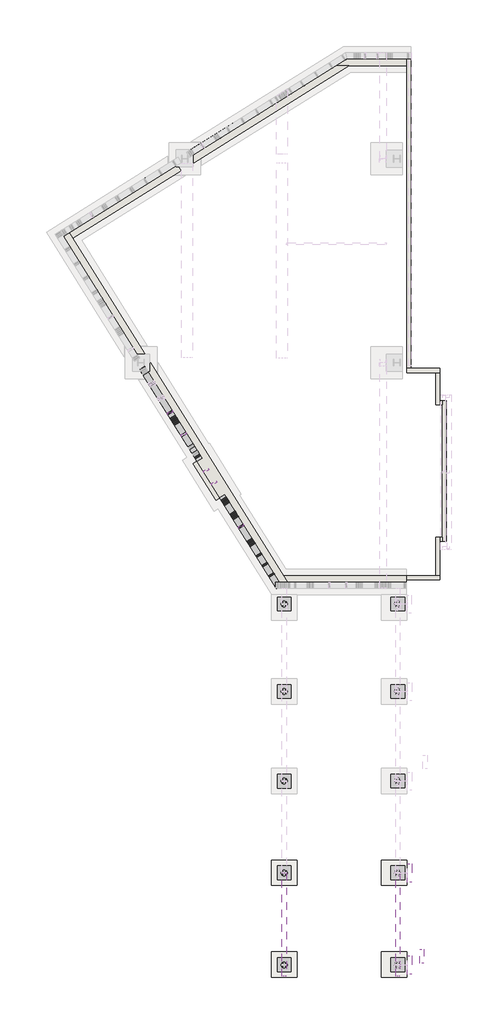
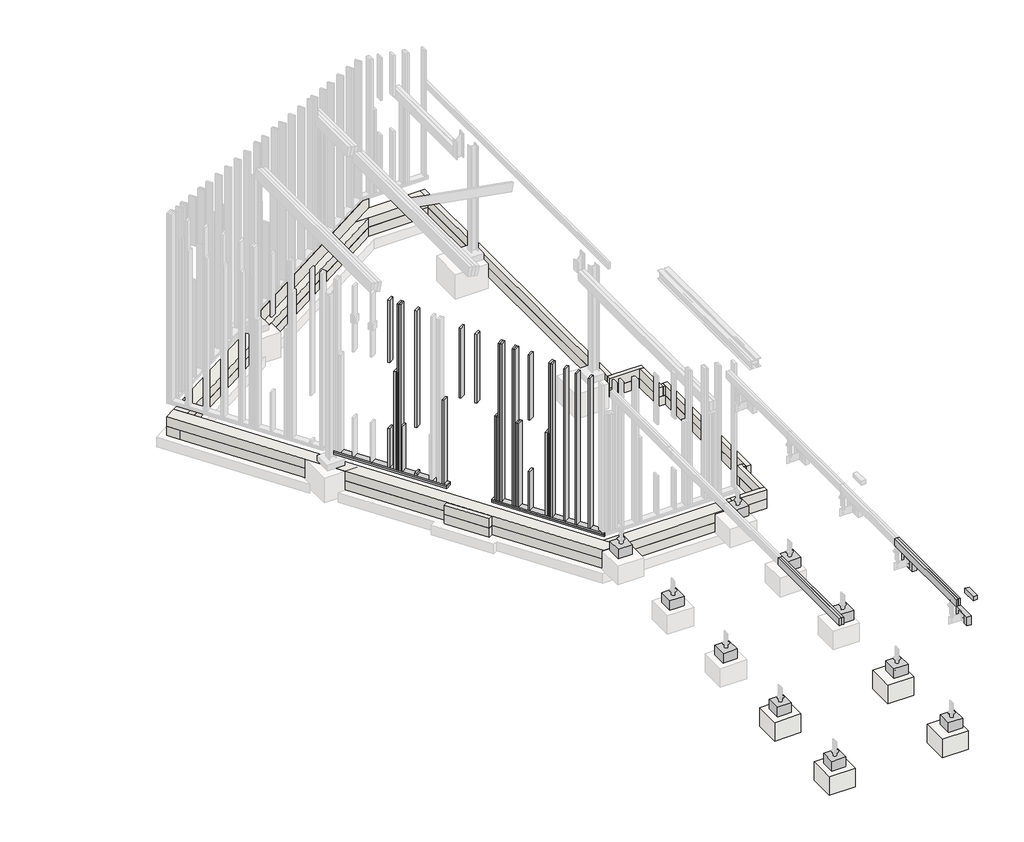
# One storey, part 1 of 4: 39 columns, 32 walls, 9 beams, 4 slabs.
"""IFC4 building model written with IfcOpenShell, lengths in millimetres."""

from ifc_helpers import new_model, si_unit, frame, origin, place, context, project, spatial, polyline, outline, extrude, faceted_brep, transform, mapped, element, save
from components import beam_100x100_d69ae5f3, beam_2no_50_x_175_2_x_50x175_3356c97d, beam_2no_50_x_175_2_x_50x175_d0a0cd10, beam_38x140_b259245b, beam_38x140_a842bf6c, beam_38x140_6110aaea, column_83368853, column_b87cddad, column_49410136, column_7c1e64be, column_413a78d8, column_adfb2fb4, column_9c828cce, column_3a553e79, column_8a827cf4, column_438b2587

model = new_model("IFC4")

# Units and contexts
model_context = context("Model", 3, world=origin())
ifc_project = project(units=[si_unit("LENGTHUNIT", "METRE", prefix="MILLI")], contexts=[model_context])

# Site, building, storey
site = spatial("IfcSite", under=ifc_project)
building = spatial("IfcBuilding", under=site)
storey = spatial("IfcBuildingStorey", under=building, Name="Ground Floor Plan Showing Foundations", Elevation=-93.0)

# Beams
placement = place(None, origin())
beam_100x100_shape = beam_100x100_d69ae5f3(model_context)
element("IfcBeam", 1, ObjectType="Graded Timber : 100x100", at=placement, inside=storey, context=model_context, shape_type="MappedRepresentation", body=[
    mapped(beam_100x100_shape, transform((-28522.9371107, -2956.2034, 2897.0), x_axis=(0.0, 1.0, 0.0), y_axis=(-1.0, 0.0, 0.0), z_axis=(0.0, 0.0, 1.0))),
])
beam_2no_50_x_175_2_x_50x175_shape = beam_2no_50_x_175_2_x_50x175_3356c97d(model_context)
element("IfcBeam", 2, ObjectType="2No 50 x 175 : 2 x 50x175", at=placement, inside=storey, context=model_context, shape_type="MappedRepresentation", body=[
    mapped(beam_2no_50_x_175_2_x_50x175_shape, transform((-29067.1341292, -2053.630818, 3177.0), x_axis=(0.0, -1.0, 0.0), y_axis=(1.0, 0.0, 0.0), z_axis=(0.0, 0.0, 1.0))),
])
beam_2no_50_x_175_2_x_50x175_2_shape = beam_2no_50_x_175_2_x_50x175_d0a0cd10(model_context)
element("IfcBeam", 3, ObjectType="2No 50 x 175 : 2 x 50x175", at=placement, inside=storey, context=model_context, shape_type="MappedRepresentation", body=[
    mapped(beam_2no_50_x_175_2_x_50x175_2_shape, transform((-31746.4559584, -2046.4167663, 3652.0), x_axis=(0.0, -1.0, 0.0), y_axis=(1.0, 0.0, 0.0), z_axis=(0.0, 0.0, 1.0))),
])
beam_38x140_shape = beam_38x140_b259245b(model_context)
element("IfcBeam", 4, ObjectType="Graded Timber : 38x140", at=placement, inside=storey, context=model_context, shape_type="MappedRepresentation", body=[
    mapped(beam_38x140_shape, transform((-34444.9117203, 9851.631725, 261.0), x_axis=(-0.5299275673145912, 0.8480429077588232, 0.0), y_axis=(0.0, 0.0, -1.0000000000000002), z_axis=(-0.8480429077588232, -0.5299275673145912, 0.0))),
])
beam_38x140_2_shape = beam_38x140_a842bf6c(model_context)
element("IfcBeam", 5, ObjectType="Graded Timber : 38x140", at=placement, inside=storey, context=model_context, shape_type="MappedRepresentation", body=[
    mapped(beam_38x140_2_shape, transform((-32564.0652255, 6841.624671, 261.0), x_axis=(-0.5299192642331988, 0.8480480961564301, 0.0), y_axis=(0.0, 0.0, -1.0000000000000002), z_axis=(-0.8480480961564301, -0.5299192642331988, 0.0))),
])
element("IfcBeam", 6, ObjectType="Graded Timber : 38x140", at=placement, inside=storey, context=model_context, shape_type="MappedRepresentation", body=[
    mapped(beam_38x140_2_shape, transform((-32564.0306662, 6841.633705, 299.0), x_axis=(-0.5299192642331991, 0.8480480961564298, 0.0), y_axis=(0.0, 0.0, -1.0000000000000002), z_axis=(-0.8480480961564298, -0.5299192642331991, 0.0))),
])
beam_38x140_3_shape = beam_38x140_6110aaea(model_context)
element("IfcBeam", 7, ObjectType="Graded Timber : 38x140", at=placement, inside=storey, context=model_context, shape_type="MappedRepresentation", body=[
    mapped(beam_38x140_3_shape, transform((-34452.6158892, 9863.9592633, 299.0), x_axis=(-0.5299275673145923, 0.8480429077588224, 0.0), y_axis=(0.0, 0.0, -1.0000000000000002), z_axis=(-0.8480429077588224, -0.5299275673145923, 0.0))),
])
element("IfcBeam", 8, ObjectType="Concrete-Rectangular Beam : 215 x 100mm", at=placement, inside=storey, context=model_context, shape_type="SweptSolid", body=[
    extrude(outline(polyline([(-28862.9371107, -2918.8830295), (-28762.9371107, -2918.8830295), (-28762.9371107, -3346.1830288), (-28862.9371107, -3346.1830288), (-28862.9371107, -2918.8830295)])), frame((0.0, 0.0, 2492.0), z_axis=(0.0, 0.0, 1.0), x_axis=(1.0, 0.0, 0.0)), (0.0, 0.0, 1.0), 215.0),
])
element("IfcBeam", 9, ObjectType="Concrete-Rectangular Beam : 215 x 100mm", at=placement, inside=storey, context=model_context, shape_type="SweptSolid", body=[
    extrude(outline(polyline([(-28862.9371107, -752.9332376), (-28762.9371107, -752.9332376), (-28762.9371107, -1180.233237), (-28862.9371107, -1180.233237), (-28862.9371107, -752.9332376)])), frame((0.0, 0.0, 2492.0), z_axis=(0.0, 0.0, 1.0), x_axis=(1.0, 0.0, 0.0)), (0.0, 0.0, 1.0), 215.0),
])

# Columns
column_shape = column_83368853(model_context)
element("IfcColumn", 10, ObjectType="Column Encasement8 : Column Encasement", at=placement, inside=storey, context=model_context, shape_type="MappedRepresentation", body=[
    mapped(column_shape, transform((0.0, -6433.8606613, 0.0), x_axis=(1.0, 0.0, 0.0), y_axis=(0.0, 1.0, 0.0), z_axis=(0.0, 0.0, 1.0))),
])
column_2_shape = column_b87cddad(model_context)
element("IfcColumn", 11, ObjectType="Column Encasement4 : Column Encasement", at=placement, inside=storey, context=model_context, shape_type="MappedRepresentation", body=[
    mapped(column_2_shape, transform((0.0, -6433.8606613, 0.0), x_axis=(1.0, 0.0, 0.0), y_axis=(0.0, 1.0, 0.0), z_axis=(0.0, 0.0, 1.0))),
])
column_3_shape = column_49410136(model_context)
element("IfcColumn", 12, ObjectType="Column Encasement5 : Column Encasement", at=placement, inside=storey, context=model_context, shape_type="MappedRepresentation", body=[
    mapped(column_3_shape, transform((0.0, -6733.8606613, 0.0), x_axis=(1.0, 0.0, 0.0), y_axis=(0.0, 1.0, 0.0), z_axis=(0.0, 0.0, 1.0))),
])
column_4_shape = column_7c1e64be(model_context)
element("IfcColumn", 13, ObjectType="Column Encasement6 : Column Encasement", at=placement, inside=storey, context=model_context, shape_type="MappedRepresentation", body=[
    mapped(column_4_shape, transform((0.0, -6433.8606613, 0.0), x_axis=(1.0, 0.0, 0.0), y_axis=(0.0, 1.0, 0.0), z_axis=(0.0, 0.0, 1.0))),
])
column_5_shape = column_413a78d8(model_context)
element("IfcColumn", 14, ObjectType="Column Encasement7 : Column Encasement", at=placement, inside=storey, context=model_context, shape_type="MappedRepresentation", body=[
    mapped(column_5_shape, transform((0.0, -6433.8606613, 0.0), x_axis=(1.0, 0.0, 0.0), y_axis=(0.0, 1.0, 0.0), z_axis=(0.0, 0.0, 1.0))),
])
column_6_shape = column_adfb2fb4(model_context)
element("IfcColumn", 15, ObjectType="Column Encasement9 : Column Encasement", at=placement, inside=storey, context=model_context, shape_type="MappedRepresentation", body=[
    mapped(column_6_shape, transform((0.0, -6433.8606613, 0.0), x_axis=(1.0, 0.0, 0.0), y_axis=(0.0, 1.0, 0.0), z_axis=(0.0, 0.0, 1.0))),
])
column_7_shape = column_9c828cce(model_context)
element("IfcColumn", 16, ObjectType="Column Encasement10 : Column Encasement", at=placement, inside=storey, context=model_context, shape_type="MappedRepresentation", body=[
    mapped(column_7_shape, transform((0.0, -6433.8606613, 0.0), x_axis=(1.0, 0.0, 0.0), y_axis=(0.0, 1.0, 0.0), z_axis=(0.0, 0.0, 1.0))),
])
column_8_shape = column_3a553e79(model_context)
element("IfcColumn", 17, ObjectType="Column Encasement12 : Column Encasement", at=placement, inside=storey, context=model_context, shape_type="MappedRepresentation", body=[
    mapped(column_8_shape, transform((0.0, -6433.8606613, 0.0), x_axis=(1.0, 0.0, 0.0), y_axis=(0.0, 1.0, 0.0), z_axis=(0.0, 0.0, 1.0))),
])
column_9_shape = column_8a827cf4(model_context)
element("IfcColumn", 18, ObjectType="Column Encasement13 : Column Encasement", at=placement, inside=storey, context=model_context, shape_type="MappedRepresentation", body=[
    mapped(column_9_shape, transform((0.0, -6433.8606613, 0.0), x_axis=(1.0, 0.0, 0.0), y_axis=(0.0, 1.0, 0.0), z_axis=(0.0, 0.0, 1.0))),
])
column_10_shape = column_438b2587(model_context)
element("IfcColumn", 19, ObjectType="Column Encasement14 : Column Encasement", at=placement, inside=storey, context=model_context, shape_type="MappedRepresentation", body=[
    mapped(column_10_shape, transform((0.0, -6736.6870523, 0.0), x_axis=(1.0, 0.0, 0.0), y_axis=(0.0, 1.0, 0.0), z_axis=(0.0, 0.0, 1.0))),
])
element("IfcColumn", 20, ObjectType="Timber : 38x140", at=placement, inside=storey, context=model_context, shape_type="Brep", body=[
    faceted_brep([(-34530.1727167, 9855.9649861, 2867.0), (-34411.4434768, 9930.1496718, 2867.0), (-34391.3076336, 9897.9231639, 2867.0), (-34510.0368734, 9823.7384781, 2867.0), (-34411.4434768, 9930.1496718, 4382.48868), (-34530.1727167, 9855.9649861, 4382.4891221), (-34391.3076336, 9897.9231639, 4378.9379956), (-34510.0368734, 9823.7384781, 4378.9384377)], [[[0, 1, 2, 3]], [[4, 1, 0, 5]], [[6, 2, 1, 4]], [[7, 3, 2, 6]], [[5, 0, 3, 7]], [[4, 5, 7, 6]]]),
])
element("IfcColumn", 21, ObjectType="Timber : 38x140", at=placement, inside=storey, context=model_context, shape_type="SweptSolid", body=[
    extrude(outline(polyline([(-33745.1702254, 8863.9286798), (-33863.8962325, 8789.7388203), (-33884.03348, 8821.9644508), (-33765.3074729, 8896.1543103), (-33745.1702254, 8863.9286798)])), frame((0.0, 0.0, 318.0), z_axis=(0.0, 0.0, 1.0), x_axis=(1.0, 0.0, 0.0)), (0.0, 0.0, 1.0), 2039.0),
])
element("IfcColumn", 22, ObjectType="Timber : 38x140", at=placement, inside=storey, context=model_context, shape_type="SweptSolid", body=[
    extrude(outline(polyline([(-32849.9557199, 7431.3050397), (-32968.6824534, 7357.1163427), (-32988.8193854, 7389.3421704), (-32870.092652, 7463.5308673), (-32849.9557199, 7431.3050397)])), frame((0.0, 0.0, 318.0), z_axis=(0.0, 0.0, 1.0), x_axis=(1.0, 0.0, 0.0)), (0.0, 0.0, 1.0), 2024.0),
])
element("IfcColumn", 23, ObjectType="Timber : 38x140", at=placement, inside=storey, context=model_context, shape_type="SweptSolid", body=[
    extrude(outline(polyline([(902.5784578, 0.0), (2473.0, 0.0), (2473.0, -38.0), (906.1291422, -38.0), (902.5784578, 0.0)])), frame((-32856.7351885, 7177.9632648, 4990.0), z_axis=(0.8480480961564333, 0.5299192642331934, 0.0), x_axis=(0.0, 0.0, -1.0)), (0.0, 0.0, 1.0), 140.0),
])
element("IfcColumn", 24, ObjectType="Timber : 38x140", at=placement, inside=storey, context=model_context, shape_type="SweptSolid", body=[
    extrude(outline(polyline([(-32511.8672302, 6890.2503508), (-32630.5939637, 6816.0616538), (-32650.7308957, 6848.2874815), (-32532.0041622, 6922.4761785), (-32511.8672302, 6890.2503508)])), frame((0.0, 0.0, 318.0), z_axis=(0.0, 0.0, 1.0), x_axis=(1.0, 0.0, 0.0)), (0.0, 0.0, 1.0), 2024.0),
])
element("IfcColumn", 25, ObjectType="Timber : 38x140", at=placement, inside=storey, context=model_context, shape_type="SweptSolid", body=[
    extrude(outline(polyline([(977.3297089, 0.0), (4672.0, 0.0), (4672.0, -38.0), (980.8803933, -38.0), (977.3297089, 0.0)])), frame((-32432.7997772, 6499.5247878, 4990.0), z_axis=(0.8480480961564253, 0.5299192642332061, 0.0), x_axis=(0.0, 0.0, -1.0)), (0.0, 0.0, 1.0), 140.0),
])
element("IfcColumn", 26, ObjectType="Timber : 38x140", at=placement, inside=storey, context=model_context, shape_type="SweptSolid", body=[
    extrude(outline(polyline([(1001.6238655, 0.0), (4672.0, 0.0), (4672.0, -38.0), (1005.1745499, -38.0), (1001.6238655, 0.0)])), frame((-32295.0207685, 6279.0322828, 4990.0), z_axis=(0.8480480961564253, 0.5299192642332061, 0.0), x_axis=(0.0, 0.0, -1.0)), (0.0, 0.0, 1.0), 140.0),
])
element("IfcColumn", 27, ObjectType="Timber : 38x140", at=placement, inside=storey, context=model_context, shape_type="SweptSolid", body=[
    extrude(outline(polyline([(-34530.1668415, 9855.9686573), (-34411.4408344, 9930.1585167), (-34391.3035869, 9897.9328862), (-34510.0295939, 9823.7430268), (-34530.1668415, 9855.9686573)])), frame((0.0, 0.0, 318.0), z_axis=(0.0, 0.0, 1.0), x_axis=(1.0, 0.0, 0.0)), (0.0, 0.0, 1.0), 948.0),
])
element("IfcColumn", 28, ObjectType="Timber : 38x140", at=placement, inside=storey, context=model_context, shape_type="SweptSolid", body=[
    extrude(outline(polyline([(-34208.2544488, 9340.8148638), (-34089.5284417, 9415.0047232), (-34069.3911942, 9382.7790928), (-34188.1172012, 9308.5892333), (-34208.2544488, 9340.8148638)])), frame((0.0, 0.0, 318.0), z_axis=(0.0, 0.0, 1.0), x_axis=(1.0, 0.0, 0.0)), (0.0, 0.0, 1.0), 73.0),
])
element("IfcColumn", 29, ObjectType="Timber : 38x140", at=placement, inside=storey, context=model_context, shape_type="Brep", body=[
    faceted_brep([(-34208.2664832, 9340.8073439, 1488.0), (-34089.5372434, 9414.9920296, 1488.0), (-34069.4014001, 9382.7655217, 1488.0), (-34188.1306399, 9308.5808359, 1488.0), (-34089.5372434, 9414.9920296, 4325.7279272), (-34208.2664832, 9340.8073439, 4325.7283694), (-34069.4014001, 9382.7655217, 4322.1772428), (-34188.1306399, 9308.5808359, 4322.177685)], [[[0, 1, 2, 3]], [[4, 1, 0, 5]], [[6, 2, 1, 4]], [[7, 3, 2, 6]], [[5, 0, 3, 7]], [[4, 5, 7, 6]]]),
])
element("IfcColumn", 30, ObjectType="Timber : 38x140", at=placement, inside=storey, context=model_context, shape_type="Brep", body=[
    faceted_brep([(-33353.8011835, 8237.5688796, 2532.0), (-33472.5271906, 8163.3790202, 2532.0), (-33492.6644381, 8195.6046507, 2532.0), (-33373.9384311, 8269.7945101, 2532.0), (-33472.5271906, 8163.3790202, 4195.9977345), (-33353.8011835, 8237.5688796, 4195.9978623), (-33492.6644381, 8195.6046507, 4199.5484189), (-33373.9384311, 8269.7945101, 4199.5485468)], [[[0, 1, 2, 3]], [[4, 1, 0, 5]], [[6, 2, 1, 4]], [[7, 3, 2, 6]], [[5, 0, 3, 7]], [[4, 5, 7, 6]]]),
])
element("IfcColumn", 31, ObjectType="Timber : 38x140", at=placement, inside=storey, context=model_context, shape_type="SweptSolid", body=[
    extrude(outline(polyline([(-32717.8723, 7219.9273775), (-32836.5990335, 7145.7386805), (-32856.7359655, 7177.9645082), (-32738.0092321, 7252.1532052), (-32717.8723, 7219.9273775)])), frame((0.0, 0.0, 318.0), z_axis=(0.0, 0.0, 1.0), x_axis=(1.0, 0.0, 0.0)), (0.0, 0.0, 1.0), 948.0),
])
element("IfcColumn", 32, ObjectType="Timber : 38x140", at=placement, inside=storey, context=model_context, shape_type="SweptSolid", body=[
    extrude(outline(polyline([(757.7479087, 0.0), (2458.0, 0.0), (2458.0, -38.0), (761.2985932, -38.0), (757.7479087, 0.0)])), frame((-33678.136183, 8492.4214829, 4990.0), z_axis=(0.8480480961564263, 0.5299192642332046, 0.0), x_axis=(0.0, 0.0, -1.0)), (0.0, 0.0, 1.0), 140.0),
])
element("IfcColumn", 33, ObjectType="Timber : 38x140", at=placement, inside=storey, context=model_context, shape_type="Brep", body=[
    faceted_brep([(-34258.5037818, 9685.3957068, 318.0), (-34377.2297889, 9611.2058474, 318.0), (-34397.3670365, 9643.4314779, 318.0), (-34278.6410294, 9717.6213373, 318.0), (-34377.2297889, 9611.2058474, 4355.5212137), (-34258.5037818, 9685.3957068, 4355.5213416), (-34397.3670365, 9643.4314779, 4359.0718981), (-34278.6410294, 9717.6213373, 4359.072026)], [[[0, 1, 2, 3]], [[4, 1, 0, 5]], [[6, 2, 1, 4]], [[7, 3, 2, 6]], [[5, 0, 3, 7]], [[4, 5, 7, 6]]]),
])
element("IfcColumn", 34, ObjectType="Timber : 38x140", at=placement, inside=storey, context=model_context, shape_type="Brep", body=[
    faceted_brep([(-34278.6407144, 9717.6215342, 318.0), (-34397.3667215, 9643.4316747, 318.0), (-34417.503969, 9675.6573052, 318.0), (-34298.7779619, 9749.8471647, 318.0), (-34397.3667215, 9643.4316747, 4359.0718981), (-34278.6407144, 9717.6215342, 4359.072026), (-34417.503969, 9675.6573052, 4362.6225826), (-34298.7779619, 9749.8471647, 4362.6227104)], [[[0, 1, 2, 3]], [[4, 1, 0, 5]], [[6, 2, 1, 4]], [[7, 3, 2, 6]], [[5, 0, 3, 7]], [[4, 5, 7, 6]]]),
])
element("IfcColumn", 35, ObjectType="Timber : 38x140", at=placement, inside=storey, context=model_context, shape_type="Brep", body=[
    faceted_brep([(-33055.2056937, 7759.7760908, 318.0), (-33173.9317008, 7685.5862314, 318.0), (-33194.0689483, 7717.8118619, 318.0), (-33075.3429413, 7792.0017213, 318.0), (-33173.9317008, 7685.5862314, 4143.3520385), (-33055.2056937, 7759.7760908, 4143.3521664), (-33194.0689483, 7717.8118619, 4146.902723), (-33075.3429413, 7792.0017213, 4146.9028508)], [[[0, 1, 2, 3]], [[4, 1, 0, 5]], [[6, 2, 1, 4]], [[7, 3, 2, 6]], [[5, 0, 3, 7]], [[4, 5, 7, 6]]]),
])
element("IfcColumn", 36, ObjectType="Timber : 38x140", at=placement, inside=storey, context=model_context, shape_type="SweptSolid", body=[
    extrude(outline(polyline([(872.1870807, 0.0), (4672.0, 0.0), (4672.0, -38.0), (875.7377651, -38.0), (872.1870807, 0.0)])), frame((-33029.0932507, 7453.7938276, 4990.0), z_axis=(0.8480480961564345, 0.5299192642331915, 0.0), x_axis=(0.0, 0.0, -1.0)), (0.0, 0.0, 1.0), 140.0),
])
element("IfcColumn", 37, ObjectType="Timber : 38x140", at=placement, inside=storey, context=model_context, shape_type="SweptSolid", body=[
    extrude(outline(polyline([(946.0039416, 0.0), (4672.0, 0.0), (4672.0, -38.0), (949.554626, -38.0), (946.0039416, 0.0)])), frame((-32610.4570316, 6783.8358262, 4990.0), z_axis=(0.8480480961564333, 0.5299192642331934, 0.0), x_axis=(0.0, 0.0, -1.0)), (0.0, 0.0, 1.0), 140.0),
])
element("IfcColumn", 38, ObjectType="Timber : 38x140", at=placement, inside=storey, context=model_context, shape_type="SweptSolid", body=[
    extrude(outline(polyline([(1028.5865969, 0.0), (4672.0, 0.0), (4672.0, -38.0), (1032.1372813, -38.0), (1028.5865969, 0.0)])), frame((-32142.10752, 6034.3199313, 4990.0), z_axis=(0.8480480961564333, 0.5299192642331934, 0.0), x_axis=(0.0, 0.0, -1.0)), (0.0, 0.0, 1.0), 140.0),
])
element("IfcColumn", 39, ObjectType="Timber : 38x140", at=placement, inside=storey, context=model_context, shape_type="SweptSolid", body=[
    extrude(outline(polyline([(-34318.9067862, 9782.0780497), (-34437.6327933, 9707.8881903), (-34457.7700409, 9740.1138208), (-34339.0440338, 9814.3036802), (-34318.9067862, 9782.0780497)])), frame((0.0, 0.0, 318.0), z_axis=(0.0, 0.0, 1.0), x_axis=(1.0, 0.0, 0.0)), (0.0, 0.0, 1.0), 2374.0),
])
element("IfcColumn", 40, ObjectType="Timber : 38x140", at=placement, inside=storey, context=model_context, shape_type="Brep", body=[
    faceted_brep([(-33075.343248, 7792.0015296, 318.0), (-33194.069255, 7717.8116702, 318.0), (-33214.2065026, 7750.0373007, 318.0), (-33095.4804955, 7824.2271601, 318.0), (-33194.069255, 7717.8116702, 4146.902723), (-33075.343248, 7792.0015296, 4146.9028508), (-33214.2065026, 7750.0373007, 4150.4534074), (-33095.4804955, 7824.2271601, 4150.4535353)], [[[0, 1, 2, 3]], [[4, 1, 0, 5]], [[6, 2, 1, 4]], [[7, 3, 2, 6]], [[5, 0, 3, 7]], [[4, 5, 7, 6]]]),
])
element("IfcColumn", 41, ObjectType="Timber : 38x140", at=placement, inside=storey, context=model_context, shape_type="SweptSolid", body=[
    extrude(outline(polyline([(-34298.7698577, 9749.8522288), (-34417.4958647, 9675.6623693), (-34437.6331123, 9707.8879998), (-34318.9071052, 9782.0778593), (-34298.7698577, 9749.8522288)])), frame((0.0, 0.0, 318.0), z_axis=(0.0, 0.0, 1.0), x_axis=(1.0, 0.0, 0.0)), (0.0, 0.0, 1.0), 2374.0),
])
element("IfcColumn", 42, ObjectType="Timber : 38x140", at=placement, inside=storey, context=model_context, shape_type="SweptSolid", body=[
    extrude(outline(polyline([(-33115.6163845, 7856.4520182), (-33234.3423915, 7782.2621588), (-33254.4796391, 7814.4877893), (-33135.753632, 7888.6776487), (-33115.6163845, 7856.4520182)])), frame((0.0, 0.0, 318.0), z_axis=(0.0, 0.0, 1.0), x_axis=(1.0, 0.0, 0.0)), (0.0, 0.0, 1.0), 2039.0),
])
element("IfcColumn", 43, ObjectType="Timber : 38x140", at=placement, inside=storey, context=model_context, shape_type="SweptSolid", body=[
    extrude(outline(polyline([(-33095.4787267, 7824.2250304), (-33214.2047338, 7750.035171), (-33234.3419814, 7782.2608014), (-33115.6159743, 7856.4506609), (-33095.4787267, 7824.2250304)])), frame((0.0, 0.0, 318.0), z_axis=(0.0, 0.0, 1.0), x_axis=(1.0, 0.0, 0.0)), (0.0, 0.0, 1.0), 2039.0),
])
element("IfcColumn", 44, ObjectType="Timber : 38x140", at=placement, inside=storey, context=model_context, shape_type="SweptSolid", body=[
    extrude(outline(polyline([(868.6363963, 0.0), (4672.0, 0.0), (4672.0, -38.0000001), (872.1870807, -38.0000001), (868.6363963, 0.0)])), frame((-33049.2301833, 7486.0196549, 4990.0), z_axis=(0.8480480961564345, 0.5299192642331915, 0.0), x_axis=(0.0, 0.0, -1.0)), (0.0, 0.0, 1.0), 140.0),
])
element("IfcColumn", 45, ObjectType="Timber : 38x140", at=placement, inside=storey, context=model_context, shape_type="SweptSolid", body=[
    extrude(outline(polyline([(949.554626, 0.0), (4672.0, 0.0), (4672.0, -37.9999999), (953.1053105, -37.9999999), (949.554626, 0.0)])), frame((-32590.320099, 6751.6099988, 4990.0), z_axis=(0.8480480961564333, 0.5299192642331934, 0.0), x_axis=(0.0, 0.0, -1.0)), (0.0, 0.0, 1.0), 140.0),
])
element("IfcColumn", 46, ObjectType="Timber : 38x140", at=placement, inside=storey, context=model_context, shape_type="SweptSolid", body=[
    extrude(outline(polyline([(-32870.0926537, 7463.5308689), (-32988.8193871, 7389.3421719), (-33008.9563192, 7421.5679996), (-32890.2295857, 7495.7566966), (-32870.0926537, 7463.5308689)])), frame((0.0, 0.0, 318.0), z_axis=(0.0, 0.0, 1.0), x_axis=(1.0, 0.0, 0.0)), (0.0, 0.0, 1.0), 2024.0),
])
element("IfcColumn", 47, ObjectType="Timber : 38x140", at=placement, inside=storey, context=model_context, shape_type="SweptSolid", body=[
    extrude(outline(polyline([(-32491.7302976, 6858.0245235), (-32610.4570311, 6783.8358265), (-32630.5939631, 6816.0616541), (-32511.8672297, 6890.2503511), (-32491.7302976, 6858.0245235)])), frame((0.0, 0.0, 318.0), z_axis=(0.0, 0.0, 1.0), x_axis=(1.0, 0.0, 0.0)), (0.0, 0.0, 1.0), 2024.0),
])
element("IfcColumn", 48, ObjectType="Timber : 38x140", at=placement, inside=storey, context=model_context, shape_type="SweptSolid", body=[
    extrude(outline(polyline([(-34238.4208461, 9653.2562925), (-34357.1468532, 9579.0664331), (-34377.2841008, 9611.2920636), (-34258.5580937, 9685.481923), (-34238.4208461, 9653.2562925)])), frame((0.0, 0.0, 318.0), z_axis=(0.0, 0.0, 1.0), x_axis=(1.0, 0.0, 0.0)), (0.0, 0.0, 1.0), 1094.0),
])

# Slabs
element("IfcSlab", 49, ObjectType="Footing-Strip : 600 x 600 x 450mm", at=placement, inside=storey, context=model_context, shape_type="SweptSolid", body=[
    extrude(outline(polyline([(-29477.9371107, -2826.7974135), (-28877.9371107, -2826.7974135), (-28877.9371107, -3426.7974135), (-29477.9371107, -3426.7974135), (-29477.9371107, -2826.7974135)])), frame((0.0, 0.0, -443.0), z_axis=(0.0, 0.0, 1.0), x_axis=(1.0, 0.0, 0.0)), (0.0, 0.0, 1.0), 450.0),
])
element("IfcSlab", 50, ObjectType="Footing-Strip : 600 x 600 x 450mm", at=placement, inside=storey, context=model_context, shape_type="SweptSolid", body=[
    extrude(outline(polyline([(-29477.9371107, -660.8476217), (-28877.9371107, -660.8476217), (-28877.9371107, -1260.8476217), (-29477.9371107, -1260.8476217), (-29477.9371107, -660.8476217)])), frame((0.0, 0.0, -443.0), z_axis=(0.0, 0.0, 1.0), x_axis=(1.0, 0.0, 0.0)), (0.0, 0.0, 1.0), 450.0),
])
element("IfcSlab", 51, ObjectType="Footing-Strip : 600 x 600 x 450mm", at=placement, inside=storey, context=model_context, shape_type="SweptSolid", body=[
    extrude(outline(polyline([(-32069.9559584, -2826.7974135), (-31469.9559584, -2826.7974135), (-31469.9559584, -3426.7974135), (-32069.9559584, -3426.7974135), (-32069.9559584, -2826.7974135)])), frame((0.0, 0.0, -443.0), z_axis=(0.0, 0.0, 1.0), x_axis=(1.0, 0.0, 0.0)), (0.0, 0.0, 1.0), 450.0),
])
element("IfcSlab", 52, ObjectType="Footing-Strip : 600 x 600 x 450mm", at=placement, inside=storey, context=model_context, shape_type="SweptSolid", body=[
    extrude(outline(polyline([(-32069.9559584, -660.8476217), (-31469.9559584, -660.8476217), (-31469.9559584, -1260.8476217), (-32069.9559584, -1260.8476217), (-32069.9559584, -660.8476217)])), frame((0.0, 0.0, -443.0), z_axis=(0.0, 0.0, 1.0), x_axis=(1.0, 0.0, 0.0)), (0.0, 0.0, 1.0), 450.0),
])

# Walls
element("IfcWall", 53, ObjectType="Generic - 100mm", at=placement, inside=storey, context=model_context, shape_type="SweptSolid", body=[
    extrude(outline(polyline([(-33381.7837604, 7810.5734979), (-33920.1078952, 8672.0721986), (-33835.3030856, 8725.064125), (-33296.9789508, 7863.5654243), (-33381.7837604, 7810.5734979)])), frame((0.0, 0.0, -318.0), z_axis=(0.0, 0.0, 1.0), x_axis=(1.0, 0.0, 0.0)), (0.0, 0.0, 1.0), 225.0),
])
element("IfcWall", 54, ObjectType="Generic - 100mm", at=placement, inside=storey, context=model_context, shape_type="SweptSolid", body=[
    extrude(outline(polyline([(-33381.7837604, 7810.5734979), (-33919.6518127, 8671.3423161), (-33834.847003, 8724.3342424), (-33296.9789508, 7863.5654242), (-33381.7837604, 7810.5734979)])), frame((0.0, 0.0, -543.0), z_axis=(0.0, 0.0, 1.0), x_axis=(1.0, 0.0, 0.0)), (0.0, 0.0, 1.0), 225.0),
])
element("IfcWall", 55, ObjectType="Generic - 100mm", at=placement, inside=storey, context=model_context, shape_type="Brep", body=[
    faceted_brep([(-28881.9398867, 18347.3350736, -318.0), (-28881.9398867, 18047.3350736, -318.0), (-28881.9398867, 10916.9652362, -318.0), (-28881.9398867, 10916.9652362, -93.0), (-28881.9398867, 18047.3350736, -93.0), (-28881.9398867, 18347.3350736, -93.0), (-28781.9398867, 18347.3350736, -318.0), (-28781.9398867, 18347.3350736, -93.0), (-28781.9398867, 10916.9652362, -93.0), (-28781.9398867, 10916.9652362, -318.0)], [[[0, 1, 2, 3, 4, 5]], [[6, 7, 8, 9]], [[2, 1, 0, 6, 9]], [[5, 4, 3, 8, 7]], [[0, 5, 7, 6]], [[3, 2, 9, 8]]]),
])
element("IfcWall", 56, ObjectType="Generic - 100mm", at=placement, inside=storey, context=model_context, shape_type="SweptSolid", body=[
    extrude(outline(polyline([(-28881.9398867, 10916.9652362), (-28881.9398867, 18047.3350736), (-28781.9398867, 18047.3350736), (-28781.9398867, 10916.9652362), (-28881.9398867, 10916.9652362)])), frame((0.0, 0.0, -543.0), z_axis=(0.0, 0.0, 1.0), x_axis=(1.0, 0.0, 0.0)), (0.0, 0.0, 1.0), 225.0),
])
element("IfcWall", 57, ObjectType="Generic - 100mm", at=placement, inside=storey, context=model_context, shape_type="Brep", body=[
    faceted_brep([(-28881.9398867, 10816.9652362, -318.0), (-28198.1898867, 10816.9652362, -318.0), (-28098.1898867, 10816.9652362, -318.0), (-28098.1898867, 10816.9652362, -93.0), (-28198.1898867, 10816.9652362, -93.0), (-28881.9398867, 10816.9652362, -93.0), (-28881.9398867, 10916.9652362, -318.0), (-28881.9398867, 10916.9652362, -93.0), (-28781.9398867, 10916.9652362, -93.0), (-28098.1898867, 10916.9652362, -93.0), (-28098.1898867, 10916.9652362, -318.0), (-28781.9398867, 10916.9652362, -318.0)], [[[0, 1, 2, 3, 4, 5]], [[6, 7, 8, 9, 10, 11]], [[2, 1, 0, 6, 11, 10]], [[5, 4, 3, 9, 8, 7]], [[3, 2, 10, 9]], [[0, 5, 7, 6]]]),
])
element("IfcWall", 58, ObjectType="Generic - 100mm", at=placement, inside=storey, context=model_context, shape_type="Brep", body=[
    faceted_brep([(-28888.1898867, 5934.5588406, -318.0), (-28098.1898867, 5934.5588406, -318.0), (-28098.1898867, 5934.5588406, -93.0), (-28888.1898867, 5934.5588406, -93.0), (-28888.1898867, 6034.5588406, -318.0), (-28888.1898867, 6034.5588406, -93.0), (-28198.1898867, 6034.5588406, -93.0), (-28098.1898867, 6034.5588406, -93.0), (-28098.1898867, 6034.5588406, -318.0), (-28198.1898867, 6034.5588406, -318.0)], [[[0, 1, 2, 3]], [[4, 5, 6, 7, 8, 9]], [[1, 0, 4, 9, 8]], [[3, 2, 7, 6, 5]], [[0, 3, 5, 4]], [[2, 1, 8, 7]]]),
])
element("IfcWall", 59, ObjectType="Generic - 100mm", at=placement, inside=storey, context=model_context, shape_type="Brep", body=[
    faceted_brep([(-28881.9398867, 10816.9652362, -543.0), (-28198.1898867, 10816.9652362, -543.0), (-28098.1898867, 10816.9652362, -543.0), (-28098.1898867, 10816.9652362, -318.0), (-28198.1898867, 10816.9652362, -318.0), (-28881.9398867, 10816.9652362, -318.0), (-28881.9398867, 10916.9652362, -543.0), (-28881.9398867, 10916.9652362, -318.0), (-28781.9398867, 10916.9652362, -318.0), (-28098.1898867, 10916.9652362, -318.0), (-28098.1898867, 10916.9652362, -543.0), (-28781.9398867, 10916.9652362, -543.0)], [[[0, 1, 2, 3, 4, 5]], [[6, 7, 8, 9, 10, 11]], [[2, 1, 0, 6, 11, 10]], [[5, 4, 3, 9, 8, 7]], [[0, 5, 7, 6]], [[3, 2, 10, 9]]]),
])
element("IfcWall", 60, ObjectType="Generic - 100mm", at=placement, inside=storey, context=model_context, shape_type="Brep", body=[
    faceted_brep([(-28888.1898867, 5934.5588406, -543.0), (-28098.1898867, 5934.5588406, -543.0), (-28098.1898867, 5934.5588406, -318.0), (-28888.1898867, 5934.5588406, -318.0), (-28888.1898867, 6034.5588406, -543.0), (-28888.1898867, 6034.5588406, -318.0), (-28198.1898867, 6034.5588406, -318.0), (-28098.1898867, 6034.5588406, -318.0), (-28098.1898867, 6034.5588406, -543.0), (-28198.1898867, 6034.5588406, -543.0)], [[[0, 1, 2, 3]], [[4, 5, 6, 7, 8, 9]], [[1, 0, 4, 9, 8]], [[3, 2, 7, 6, 5]], [[0, 3, 5, 4]], [[2, 1, 8, 7]]]),
])
element("IfcWall", 61, ObjectType="Generic - 100mm", at=placement, inside=storey, context=model_context, shape_type="Brep", body=[
    faceted_brep([(-28198.1898867, 10816.9652362, -318.0), (-28198.1898867, 10056.9652362, -318.0), (-28198.1898867, 10056.9652362, -93.0), (-28198.1898867, 10816.9652362, -93.0), (-28098.1898867, 10816.9652362, -318.0), (-28098.1898867, 10816.9652362, -93.0), (-28098.1898867, 10156.9652362, -93.0), (-28098.1898867, 10056.9652362, -93.0), (-28098.1898867, 10056.9652362, -318.0), (-28098.1898867, 10156.9652362, -318.0)], [[[0, 1, 2, 3]], [[4, 5, 6, 7, 8, 9]], [[1, 0, 4, 9, 8]], [[2, 1, 8, 7]], [[3, 2, 7, 6, 5]], [[0, 3, 5, 4]]]),
])
element("IfcWall", 62, ObjectType="Generic - 100mm", at=placement, inside=storey, context=model_context, shape_type="Brep", body=[
    faceted_brep([(-28198.1898867, 6940.7620384, -318.0), (-28198.1898867, 6034.5588406, -318.0), (-28198.1898867, 6034.5588406, -93.0), (-28198.1898867, 6940.7620384, -93.0), (-28098.1898867, 6940.7620384, -318.0), (-28098.1898867, 6940.7620384, -93.0), (-28098.1898867, 6840.7620384, -93.0), (-28098.1898867, 6034.5588406, -93.0), (-28098.1898867, 6034.5588406, -318.0), (-28098.1898867, 6840.7620384, -318.0)], [[[0, 1, 2, 3]], [[4, 5, 6, 7, 8, 9]], [[1, 0, 4, 9, 8]], [[3, 2, 7, 6, 5]], [[0, 3, 5, 4]], [[2, 1, 8, 7]]]),
])
element("IfcWall", 63, ObjectType="Generic - 100mm", at=placement, inside=storey, context=model_context, shape_type="SweptSolid", body=[
    extrude(outline(polyline([(-28198.1898867, 10156.9652362), (-28198.1898867, 10816.9652362), (-28098.1898867, 10816.9652362), (-28098.1898867, 10156.9652362), (-28198.1898867, 10156.9652362)])), frame((0.0, 0.0, -543.0), z_axis=(0.0, 0.0, 1.0), x_axis=(1.0, 0.0, 0.0)), (0.0, 0.0, 1.0), 225.0),
])
element("IfcWall", 64, ObjectType="Generic - 100mm", at=placement, inside=storey, context=model_context, shape_type="SweptSolid", body=[
    extrude(outline(polyline([(-28198.1898867, 6034.5588406), (-28198.1898867, 6840.7620384), (-28098.1898867, 6840.7620384), (-28098.1898867, 6034.5588406), (-28198.1898867, 6034.5588406)])), frame((0.0, 0.0, -543.0), z_axis=(0.0, 0.0, 1.0), x_axis=(1.0, 0.0, 0.0)), (0.0, 0.0, 1.0), 225.0),
])
element("IfcWall", 65, ObjectType="Generic - 100mm", at=placement, inside=storey, context=model_context, shape_type="SweptSolid", body=[
    extrude(outline(polyline([(-28048.1898867, 6940.7620384), (-28048.1898867, 10056.9652362), (-27948.1898867, 10056.9652362), (-27948.1898867, 6940.7620384), (-28048.1898867, 6940.7620384)])), frame((0.0, 0.0, -543.0), z_axis=(0.0, 0.0, 1.0), x_axis=(1.0, 0.0, 0.0)), (0.0, 0.0, 1.0), 225.0),
])
element("IfcWall", 66, ObjectType="Generic - 100mm", at=placement, inside=storey, context=model_context, shape_type="Brep", body=[
    faceted_brep([(-28048.1898867, 10156.9652362, -318.0), (-28048.1898867, 10056.9652362, -318.0), (-28048.1898867, 6940.7620384, -318.0), (-28048.1898867, 6840.7620384, -318.0), (-28048.1898867, 6840.7620384, -93.0), (-28048.1898867, 6940.7620384, -93.0), (-28048.1898867, 10056.9652362, -93.0), (-28048.1898867, 10156.9652362, -93.0), (-27948.1898867, 10156.9652362, -318.0), (-27948.1898867, 10156.9652362, -93.0), (-27948.1898867, 6840.7620384, -93.0), (-27948.1898867, 6840.7620384, -318.0)], [[[0, 1, 2, 3, 4, 5, 6, 7]], [[8, 9, 10, 11]], [[3, 2, 1, 0, 8, 11]], [[7, 6, 5, 4, 10, 9]], [[0, 7, 9, 8]], [[4, 3, 11, 10]]]),
])
element("IfcWall", 67, ObjectType="Generic - 100mm", at=placement, inside=storey, context=model_context, shape_type="SweptSolid", body=[
    extrude(outline(polyline([(-28048.1898867, 10056.9652362), (-28098.1898867, 10056.9652362), (-28098.1898867, 10156.9652362), (-28048.1898867, 10156.9652362), (-28048.1898867, 10056.9652362)])), frame((0.0, 0.0, -318.0), z_axis=(0.0, 0.0, 1.0), x_axis=(1.0, 0.0, 0.0)), (0.0, 0.0, 1.0), 225.0),
])
element("IfcWall", 68, ObjectType="Generic - 100mm", at=placement, inside=storey, context=model_context, shape_type="SweptSolid", body=[
    extrude(outline(polyline([(-28048.1898867, 6840.7620384), (-28098.1898867, 6840.7620384), (-28098.1898867, 6940.7620384), (-28048.1898867, 6940.7620384), (-28048.1898867, 6840.7620384)])), frame((0.0, 0.0, -318.0), z_axis=(0.0, 0.0, 1.0), x_axis=(1.0, 0.0, 0.0)), (0.0, 0.0, 1.0), 225.0),
])
element("IfcWall", 69, ObjectType="Generic - 100mm", at=placement, inside=storey, context=model_context, shape_type="Brep", body=[
    faceted_brep([(-28198.1898867, 10056.9652362, -543.0), (-28048.1898867, 10056.9652362, -543.0), (-27948.1898867, 10056.9652362, -543.0), (-27948.1898867, 10056.9652362, -318.0), (-28048.1898867, 10056.9652362, -318.0), (-28198.1898867, 10056.9652362, -318.0), (-28198.1898867, 10156.9652362, -543.0), (-28198.1898867, 10156.9652362, -318.0), (-28098.1898867, 10156.9652362, -318.0), (-27948.1898867, 10156.9652362, -318.0), (-27948.1898867, 10156.9652362, -543.0), (-28098.1898867, 10156.9652362, -543.0)], [[[0, 1, 2, 3, 4, 5]], [[6, 7, 8, 9, 10, 11]], [[2, 1, 0, 6, 11, 10]], [[5, 4, 3, 9, 8, 7]], [[0, 5, 7, 6]], [[3, 2, 10, 9]]]),
])
element("IfcWall", 70, ObjectType="Generic - 100mm", at=placement, inside=storey, context=model_context, shape_type="Brep", body=[
    faceted_brep([(-28198.1898867, 6840.7620384, -543.0), (-28098.1898867, 6840.7620384, -543.0), (-27948.1898867, 6840.7620384, -543.0), (-27948.1898867, 6840.7620384, -318.0), (-28098.1898867, 6840.7620384, -318.0), (-28198.1898867, 6840.7620384, -318.0), (-28198.1898867, 6940.7620384, -543.0), (-28198.1898867, 6940.7620384, -318.0), (-28048.1898867, 6940.7620384, -318.0), (-27948.1898867, 6940.7620384, -318.0), (-27948.1898867, 6940.7620384, -543.0), (-28048.1898867, 6940.7620384, -543.0)], [[[0, 1, 2, 3, 4, 5]], [[6, 7, 8, 9, 10, 11]], [[2, 1, 0, 6, 11, 10]], [[5, 4, 3, 9, 8, 7]], [[0, 5, 7, 6]], [[3, 2, 10, 9]]]),
])
element("IfcWall", 71, ObjectType="Generic - 100mm", at=placement, inside=storey, context=model_context, shape_type="SweptSolid", body=[
    extrude(outline(polyline([(-28198.1898867, 6034.5588406), (-28198.1898867, 6840.7620384), (-28098.1898867, 6840.7620384), (-28098.1898867, 6034.5588406), (-28198.1898867, 6034.5588406)])), frame((0.0, 0.0, -543.0), z_axis=(0.0, 0.0, 1.0), x_axis=(1.0, 0.0, 0.0)), (0.0, 0.0, 1.0), 225.0),
])
element("IfcWall", 72, ObjectType="Generic - 140mm", at=placement, inside=storey, context=model_context, shape_type="Brep", body=[
    faceted_brep([(-30330.2915033, 18347.3350736, -93.0), (-34073.416164, 16008.4010926, -93.0), (-34073.416164, 16008.4010926, 242.0), (-30330.2915033, 18347.3350736, 242.0), (-30066.0978863, 18347.3350736, -93.0), (-30066.0978863, 18347.3350736, 242.0), (-30290.1475845, 18207.3350736, 242.0), (-33999.228149, 15889.6739329, 242.0), (-33999.228149, 15889.6739329, -93.0), (-30290.1475845, 18207.3350736, -93.0)], [[[0, 1, 2, 3]], [[4, 5, 6, 7, 8, 9]], [[1, 0, 4, 9, 8]], [[2, 1, 8, 7]], [[3, 2, 7, 6, 5]], [[0, 3, 5, 4]]]),
])
element("IfcWall", 73, ObjectType="Generic - 300mm", at=placement, inside=storey, context=model_context, shape_type="Brep", body=[
    faceted_brep([(-28881.9398867, 18347.3350736, -318.0), (-29764.1677464, 18347.3350736, -318.0), (-30330.2917209, 18347.3350736, -318.0), (-30330.2917209, 18347.3350736, -93.0), (-28881.9398867, 18347.3350736, -93.0), (-28881.9398867, 18047.3350736, -318.0), (-28881.9398867, 18047.3350736, -93.0), (-30244.2681051, 18047.3350736, -93.0), (-30810.3920796, 18047.3350736, -93.0), (-30810.3920796, 18047.3350736, -318.0), (-30244.2681051, 18047.3350736, -318.0)], [[[0, 1, 2, 3, 4]], [[5, 6, 7, 8, 9, 10]], [[2, 1, 0, 5, 10, 9]], [[4, 3, 8, 7, 6]], [[3, 2, 9, 8]], [[0, 4, 6, 5]]]),
])
element("IfcWall", 74, ObjectType="Generic - 300mm", at=placement, inside=storey, context=model_context, shape_type="Brep", body=[
    faceted_brep([(-37166.7848918, 14075.4200165, -318.0), (-35299.3437868, 11086.8960637, -318.0), (-35299.3437868, 11086.8960637, -93.0), (-37166.7848918, 14075.4200165, -93.0), (-36912.370463, 14234.3957958, -318.0), (-36912.370463, 14234.3957958, -93.0), (-36753.394434, 13979.981523, -93.0), (-35044.929514, 11245.8720928, -93.0), (-35044.929514, 11245.8720928, -318.0), (-36753.394434, 13979.981523, -318.0)], [[[0, 1, 2, 3]], [[4, 5, 6, 7, 8, 9]], [[1, 0, 4, 9, 8]], [[2, 1, 8, 7]], [[3, 2, 7, 6, 5]], [[0, 3, 5, 4]]]),
])
element("IfcWall", 75, ObjectType="Generic - 300mm", at=placement, inside=storey, context=model_context, shape_type="Brep", body=[
    faceted_brep([(-31602.3324188, 5736.5588406, -318.0), (-28888.1898867, 5736.5588406, -318.0), (-28888.1898867, 5736.5588406, -93.0), (-31602.3324188, 5736.5588406, -93.0), (-31789.7932243, 6036.5588406, -318.0), (-31789.7932243, 6036.5588406, -93.0), (-28888.1898867, 6036.5588406, -93.0), (-28888.1898867, 6036.5588406, -318.0), (-28888.1898867, 6034.5588406, -318.0), (-28888.1898867, 5934.5588406, -318.0), (-28888.1898867, 6034.5588406, -93.0), (-28888.1898867, 5934.5588406, -93.0)], [[[0, 1, 2, 3]], [[4, 5, 6, 7]], [[1, 0, 4, 7, 8, 9]], [[2, 1, 9, 8, 7, 6, 10, 11]], [[3, 2, 11, 10, 6, 5]], [[0, 3, 5, 4]]]),
])
element("IfcWall", 76, ObjectType="Generic - 300mm", at=placement, inside=storey, context=model_context, shape_type="Brep", body=[
    faceted_brep([(-35175.8794373, 10889.3055511, -318.0), (-31956.0859398, 5736.5588406, -318.0), (-31956.0859398, 5736.5588406, -93.0), (-35175.8794373, 10889.3055511, -93.0), (-34921.4650084, 11048.2813303, -318.0), (-34921.4650084, 11048.2813303, -93.0), (-31789.7932243, 6036.5588406, -93.0), (-31602.3324188, 5736.5588406, -93.0), (-31602.3324188, 5736.5588406, -318.0), (-31789.7932243, 6036.5588406, -318.0)], [[[0, 1, 2, 3]], [[4, 5, 6, 7, 8, 9]], [[1, 0, 4, 9, 8]], [[3, 2, 7, 6, 5]], [[0, 3, 5, 4]], [[2, 1, 8, 7]]]),
])
element("IfcWall", 77, ObjectType="Generic - 300mm", at=placement, inside=storey, context=model_context, shape_type="SweptSolid", body=[
    extrude(outline(polyline([(-36912.370463, 14234.3957958), (-34361.438889, 15828.3947552), (-34202.4631098, 15573.9803263), (-36753.394434, 13979.981523), (-36912.370463, 14234.3957958)])), frame((0.0, 0.0, -318.0), z_axis=(0.0, 0.0, 1.0), x_axis=(1.0, 0.0, 0.0)), (0.0, 0.0, 1.0), 225.0),
])
element("IfcWall", 78, ObjectType="Generic - 300mm", at=placement, inside=storey, context=model_context, shape_type="SweptSolid", body=[
    extrude(outline(polyline([(-34149.7278483, 15960.686496), (-30810.3920796, 18047.3350736), (-30244.2681051, 18047.3350736), (-33990.752069, 15706.2720671), (-34149.7278483, 15960.686496)])), frame((0.0, 0.0, -318.0), z_axis=(0.0, 0.0, 1.0), x_axis=(1.0, 0.0, 0.0)), (0.0, 0.0, 1.0), 225.0),
])
element("IfcWall", 79, ObjectType="Generic - 300mm", at=placement, inside=storey, context=model_context, shape_type="Brep", body=[
    faceted_brep([(-34361.438889, 15828.3947552, -543.0), (-37166.7847671, 14075.4200945, -543.0), (-37166.7847671, 14075.4200945, -318.0), (-34361.438889, 15828.3947552, -318.0), (-34202.4631098, 15573.9803263, -543.0), (-34202.4631098, 15573.9803263, -318.0), (-36753.394559, 13979.9814449, -318.0), (-37007.8089878, 13821.0056656, -318.0), (-37007.8089878, 13821.0056656, -543.0), (-36753.394559, 13979.9814449, -543.0)], [[[0, 1, 2, 3]], [[4, 5, 6, 7, 8, 9]], [[1, 0, 4, 9, 8]], [[3, 2, 7, 6, 5]], [[0, 3, 5, 4]], [[2, 1, 8, 7]]]),
])
element("IfcWall", 80, ObjectType="Generic - 300mm", at=placement, inside=storey, context=model_context, shape_type="Brep", body=[
    faceted_brep([(-28781.9398867, 18347.3350736, -543.0), (-29764.1677464, 18347.3350736, -543.0), (-29764.1677464, 18347.3350736, -318.0), (-28881.9398867, 18347.3350736, -318.0), (-28781.9398867, 18347.3350736, -318.0), (-28781.9398867, 18047.3350736, -543.0), (-28781.9398867, 18047.3350736, -318.0), (-28881.9398867, 18047.3350736, -318.0), (-30244.2681051, 18047.3350736, -318.0), (-30244.2681051, 18047.3350736, -543.0), (-28881.9398867, 18047.3350736, -543.0)], [[[0, 1, 2, 3, 4]], [[5, 6, 7, 8, 9, 10]], [[1, 0, 5, 10, 9]], [[4, 3, 2, 8, 7, 6]], [[2, 1, 9, 8]], [[0, 4, 6, 5]]]),
])
element("IfcWall", 81, ObjectType="Generic - 300mm", at=placement, inside=storey, context=model_context, shape_type="SweptSolid", body=[
    extrude(outline(polyline([(-35305.1783918, 11096.2271326), (-37007.8089878, 13821.0056656), (-36753.394559, 13979.9814449), (-35050.763963, 11255.2029119), (-35305.1783918, 11096.2271326)])), frame((0.0, 0.0, -543.0), z_axis=(0.0, 0.0, 1.0), x_axis=(1.0, 0.0, 0.0)), (0.0, 0.0, 1.0), 225.0),
])
element("IfcWall", 82, ObjectType="Generic - 300mm", at=placement, inside=storey, context=model_context, shape_type="Brep", body=[
    faceted_brep([(-35175.8794373, 10889.3055511, -543.0), (-31956.0859398, 5736.5588406, -543.0), (-31956.0859398, 5736.5588406, -318.0), (-35175.8794373, 10889.3055511, -318.0), (-34921.4650084, 11048.2813303, -543.0), (-34921.4650084, 11048.2813303, -318.0), (-31789.7932243, 6036.5588406, -318.0), (-31602.3324188, 5736.5588406, -318.0), (-31602.3324188, 5736.5588406, -543.0), (-31789.7932243, 6036.5588406, -543.0)], [[[0, 1, 2, 3]], [[4, 5, 6, 7, 8, 9]], [[1, 0, 4, 9, 8]], [[3, 2, 7, 6, 5]], [[0, 3, 5, 4]], [[2, 1, 8, 7]]]),
])
element("IfcWall", 83, ObjectType="Generic - 300mm", at=placement, inside=storey, context=model_context, shape_type="Brep", body=[
    faceted_brep([(-31602.3324188, 5736.5588406, -543.0), (-28888.1898867, 5736.5588406, -543.0), (-28888.1898867, 5736.5588406, -318.0), (-31602.3324188, 5736.5588406, -318.0), (-31789.7932243, 6036.5588406, -543.0), (-31789.7932243, 6036.5588406, -318.0), (-28888.1898867, 6036.5588406, -318.0), (-28888.1898867, 6036.5588406, -543.0), (-28888.1898867, 6034.5588406, -543.0), (-28888.1898867, 5934.5588406, -543.0), (-28888.1898867, 6034.5588406, -318.0), (-28888.1898867, 5934.5588406, -318.0)], [[[0, 1, 2, 3]], [[4, 5, 6, 7]], [[1, 0, 4, 7, 8, 9]], [[2, 1, 9, 8, 7, 6, 10, 11]], [[3, 2, 11, 10, 6, 5]], [[0, 3, 5, 4]]]),
])
element("IfcWall", 84, ObjectType="Generic - 300mm", at=placement, inside=storey, context=model_context, shape_type="Brep", body=[
    faceted_brep([(-30330.2917209, 18347.3350736, -543.0), (-34149.7278483, 15960.686496, -543.0), (-34149.7278483, 15960.686496, -318.0), (-30810.3920796, 18047.3350736, -318.0), (-30330.2917209, 18347.3350736, -318.0), (-29764.1677464, 18347.3350736, -543.0), (-29764.1677464, 18347.3350736, -318.0), (-30244.2681051, 18047.3350736, -318.0), (-33990.752069, 15706.2720671, -318.0), (-33990.752069, 15706.2720671, -543.0), (-30244.2681051, 18047.3350736, -543.0)], [[[0, 1, 2, 3, 4]], [[5, 6, 7, 8, 9, 10]], [[1, 0, 5, 10, 9]], [[2, 1, 9, 8]], [[4, 3, 2, 8, 7, 6]], [[0, 4, 6, 5]]]),
])

save(model, "model.ifc")
